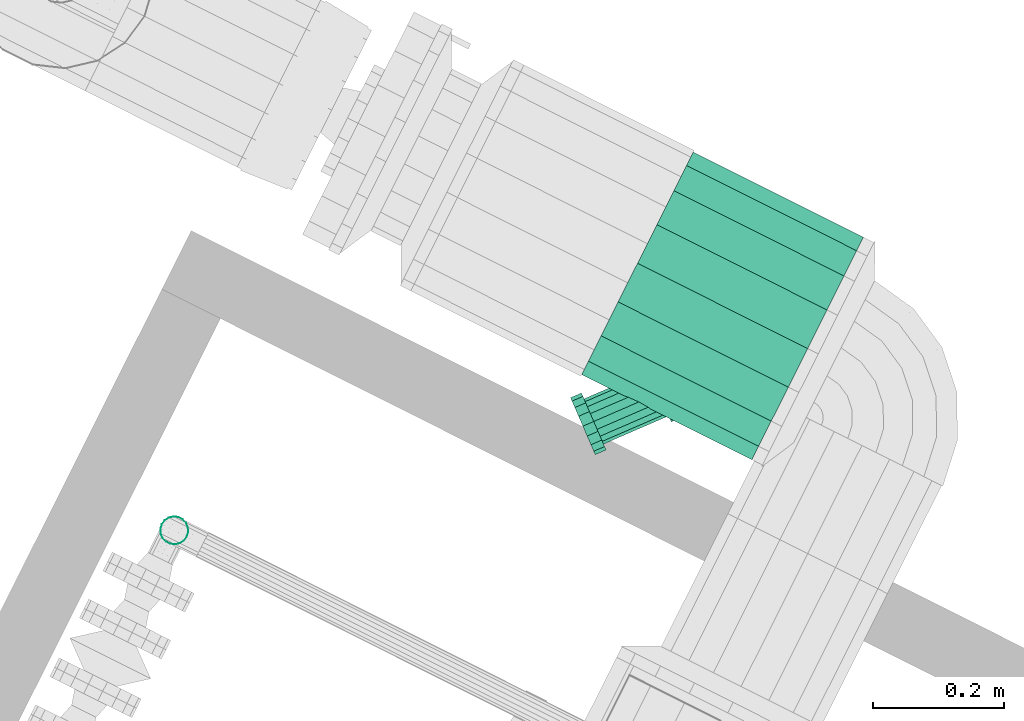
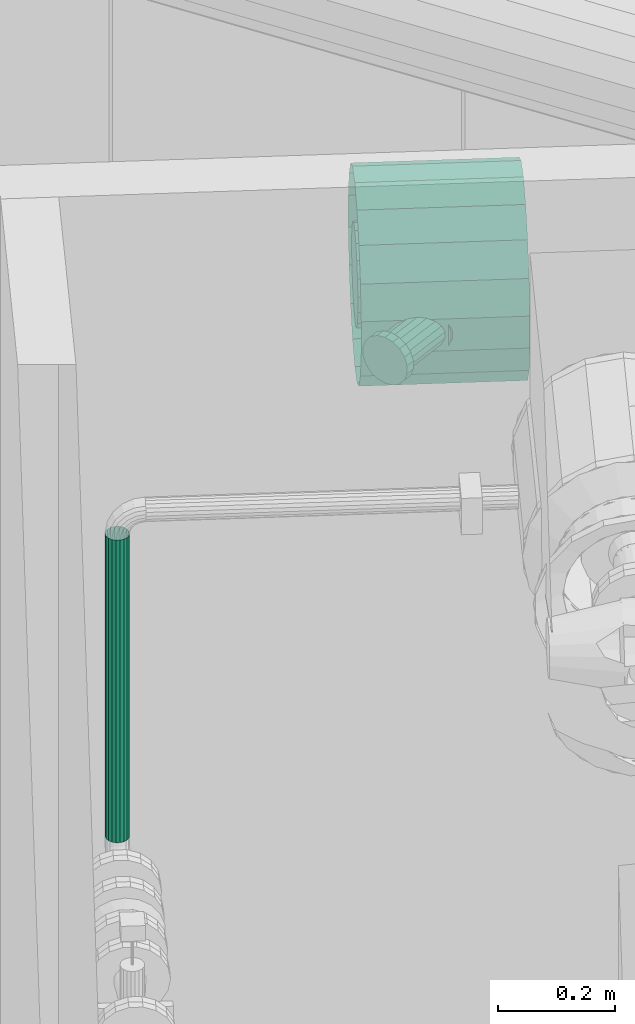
# One storey, part 157 of 206: 1 flow segment, 1 flow treatment device.
"""IFC2X3 building model written with IfcOpenShell, lengths in metres."""

from ifc_helpers import new_model, si_unit, derived_unit, direction, frame, origin, place, context, subcontext, project, spatial, face_set, surface_model, source, transform, mapped, material, type_object, type_shapes, element, save


model = new_model("IFC2X3")

# Units and contexts
model_context = context("Model", 3, precision=5.2338327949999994e-05, world=origin(), true_north=direction((0.0, 1.0)))
body_context = subcontext(model_context, "Body", "Model", "MODEL_VIEW")
ifc_project = project(units=[si_unit("LENGTHUNIT", "METRE"), si_unit("AREAUNIT", "SQUARE_METRE"), si_unit("VOLUMEUNIT", "CUBIC_METRE"), si_unit("MASSUNIT", "GRAM", prefix="KILO"), si_unit("PLANEANGLEUNIT", "RADIAN"), derived_unit("THERMALTRANSMITTANCEUNIT", [(si_unit("MASSUNIT", "GRAM", prefix="KILO"), 1), (si_unit("THERMODYNAMICTEMPERATUREUNIT", "KELVIN"), -1), (si_unit("TIMEUNIT", "SECOND"), -3)])], contexts=[model_context])

# Site, building, storey
site_placement = place(None, frame((0.0, 0.0, 0.0), z_axis=(0.0, 0.0, 1.0), x_axis=(0.8939966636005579, -0.4480736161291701, 0.0)))
site = spatial("IfcSite", under=ifc_project, at=site_placement, Name="Default", CompositionType="ELEMENT")
building_placement = place(site_placement, origin())
building = spatial("IfcBuilding", under=site, at=building_placement, CompositionType="ELEMENT")
storey_placement = place(building_placement, origin())
storey = spatial("IfcBuildingStorey", under=building, at=storey_placement, Name="Erdgeschoss", CompositionType="ELEMENT", Elevation=0.0)

# Flow treatment device
ifc_material_1 = material(Name="IfcSurfaceStyle #1741")
distribution_element_type_1 = type_object("IfcDistributionElementType", Name="Schmutzfänger 332510:Schmutzfänger 332510", material=ifc_material_1)
shared_shape_1 = source(origin(), body_context, "Body", "SurfaceModel", [
    surface_model("IfcFaceBasedSurfaceModel", [(29.630471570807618, 10.279007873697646, 2.314), (29.632229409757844, 10.277532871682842, 2.3270138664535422), (29.70768143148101, 10.367453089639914, 2.327013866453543), (29.702760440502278, 10.365158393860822, 2.3140000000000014), (29.637290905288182, 10.273285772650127, 2.338458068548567), (29.72185086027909, 10.374060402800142, 2.3384580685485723), (29.645045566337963, 10.266778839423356, 2.346952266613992), (29.74355968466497, 10.38418339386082, 2.346952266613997), (29.65455806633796, 10.258796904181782, 2.351471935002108), (29.770189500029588, 10.396601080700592, 2.351471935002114), (29.66468105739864, 10.250302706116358, 2.351471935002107), (29.787439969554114, 10.396601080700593, 2.3514719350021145), (29.674193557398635, 10.242320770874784, 2.3469522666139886), (29.793230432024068, 10.384183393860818, 2.346952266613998), (29.681948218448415, 10.235813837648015, 2.3384580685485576), (29.7979508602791, 10.374060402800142, 2.3384580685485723), (29.687009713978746, 10.231566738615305, 2.327013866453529), (29.801031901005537, 10.36745308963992, 2.3270138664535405), (29.688767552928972, 10.2300917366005, 2.3139999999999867), (29.80210193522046, 10.365158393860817, 2.3139999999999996), (29.687009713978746, 10.231566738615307, 2.300986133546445), (29.801031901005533, 10.36745308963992, 2.300986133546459), (29.681948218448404, 10.23581383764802, 2.289541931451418), (29.797950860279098, 10.374060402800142, 2.289541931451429), (29.67419355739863, 10.242320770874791, 2.2810477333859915), (29.793230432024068, 10.384183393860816, 2.2810477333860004), (29.66468105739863, 10.250302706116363, 2.276528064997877), (29.787439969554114, 10.396601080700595, 2.2765280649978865), (29.654558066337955, 10.258796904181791, 2.276528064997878), (29.770189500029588, 10.396601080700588, 2.2765280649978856), (29.645045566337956, 10.266778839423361, 2.2810477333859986), (29.743559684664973, 10.38418339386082, 2.2810477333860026), (29.637290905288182, 10.273285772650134, 2.2895419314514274), (29.72185086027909, 10.374060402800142, 2.289541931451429), (29.632229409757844, 10.277532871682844, 2.300986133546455), (29.707681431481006, 10.367453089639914, 2.3009861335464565), (29.820127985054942, 10.403208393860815, 2.2215000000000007), (29.820127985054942, 10.371571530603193, 2.2270784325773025), (29.802127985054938, 10.371571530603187, 2.227078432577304), (29.802127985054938, 10.403208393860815, 2.221500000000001), (29.820127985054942, 10.343750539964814, 2.243140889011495), (29.802127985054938, 10.343750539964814, 2.243140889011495), (29.820127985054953, 10.323101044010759, 2.2677499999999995), (29.802127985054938, 10.323101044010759, 2.2677500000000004), (29.820127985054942, 10.312113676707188, 2.2979375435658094), (29.802127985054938, 10.312113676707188, 2.2979375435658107), (29.820127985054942, 10.31211367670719, 2.3300624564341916), (29.802127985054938, 10.31211367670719, 2.3300624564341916), (29.820127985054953, 10.323101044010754, 2.3602500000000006), (29.802127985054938, 10.323101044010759, 2.3602500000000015), (29.820127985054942, 10.343750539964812, 2.3848591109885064), (29.802127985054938, 10.343750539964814, 2.384859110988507), (29.820127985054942, 10.37157153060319, 2.400921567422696), (29.802127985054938, 10.37157153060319, 2.4009215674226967), (29.820127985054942, 10.403208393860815, 2.4065000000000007), (29.802127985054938, 10.403208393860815, 2.4065000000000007), (29.820127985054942, 10.434845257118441, 2.4009215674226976), (29.802127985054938, 10.434845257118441, 2.4009215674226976), (29.820127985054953, 10.462666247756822, 2.3848591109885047), (29.802127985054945, 10.462666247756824, 2.3848591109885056), (29.820127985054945, 10.483315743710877, 2.360249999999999), (29.802127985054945, 10.483315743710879, 2.36025), (29.820127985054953, 10.494303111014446, 2.3300624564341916), (29.802127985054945, 10.494303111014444, 2.3300624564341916), (29.820127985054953, 10.494303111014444, 2.2979375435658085), (29.802127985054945, 10.494303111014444, 2.29793754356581), (29.820127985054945, 10.483315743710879, 2.2677499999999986), (29.802127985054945, 10.483315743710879, 2.2677499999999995), (29.820127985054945, 10.462666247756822, 2.243140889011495), (29.80212798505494, 10.462666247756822, 2.2431408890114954), (29.820127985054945, 10.434845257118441, 2.2270784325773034), (29.802127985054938, 10.434845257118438, 2.2270784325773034), (29.82012798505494, 10.403208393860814, 2.314), (29.802127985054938, 10.403208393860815, 2.314), (29.802127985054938, 10.403208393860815, 2.2759500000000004), (29.802127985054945, 10.390194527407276, 2.278244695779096), (29.548127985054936, 10.390194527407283, 2.2782446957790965), (29.548127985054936, 10.403208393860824, 2.275950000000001), (29.802127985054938, 10.378750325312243, 2.2848520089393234), (29.548127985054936, 10.37875032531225, 2.2848520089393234), (29.802127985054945, 10.370256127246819, 2.294975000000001), (29.54812798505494, 10.370256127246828, 2.2949750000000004), (29.802127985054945, 10.3657364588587, 2.3073926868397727), (29.548127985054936, 10.36573645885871, 2.3073926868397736), (29.80212798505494, 10.365736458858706, 2.320607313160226), (29.54812798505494, 10.365736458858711, 2.320607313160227), (29.80212798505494, 10.370256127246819, 2.333025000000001), (29.54812798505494, 10.370256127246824, 2.3330250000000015), (29.80212798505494, 10.378750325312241, 2.343147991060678), (29.548127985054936, 10.378750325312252, 2.343147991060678), (29.80212798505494, 10.390194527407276, 2.349755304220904), (29.548127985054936, 10.390194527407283, 2.3497553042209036), (29.802127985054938, 10.403208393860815, 2.3520500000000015), (29.548127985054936, 10.403208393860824, 2.3520500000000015), (29.802127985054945, 10.416222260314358, 2.3497553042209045), (29.54812798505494, 10.416222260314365, 2.349755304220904), (29.802127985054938, 10.42766646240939, 2.3431479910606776), (29.548127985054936, 10.427666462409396, 2.3431479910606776), (29.802127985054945, 10.43616066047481, 2.3330249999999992), (29.548127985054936, 10.43616066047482, 2.3330249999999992), (29.80212798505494, 10.440680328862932, 2.3206073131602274), (29.54812798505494, 10.44068032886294, 2.3206073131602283), (29.80212798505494, 10.440680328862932, 2.307392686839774), (29.54812798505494, 10.44068032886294, 2.307392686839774), (29.80212798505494, 10.436160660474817, 2.2949749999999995), (29.54812798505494, 10.43616066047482, 2.2949750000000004), (29.80212798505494, 10.42766646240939, 2.284852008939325), (29.54812798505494, 10.427666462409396, 2.2848520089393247), (29.802127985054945, 10.416222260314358, 2.2782446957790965), (29.548127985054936, 10.416222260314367, 2.2782446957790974), (29.548127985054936, 10.403208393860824, 2.2215000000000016), (29.548127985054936, 10.3715715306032, 2.227078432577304), (29.530127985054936, 10.371571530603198, 2.2270784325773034), (29.53012798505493, 10.403208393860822, 2.221500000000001), (29.548127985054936, 10.343750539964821, 2.243140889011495), (29.53012798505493, 10.343750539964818, 2.243140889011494), (29.548127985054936, 10.323101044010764, 2.267749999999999), (29.53012798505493, 10.323101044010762, 2.2677499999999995), (29.548127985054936, 10.312113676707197, 2.29793754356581), (29.53012798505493, 10.312113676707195, 2.29793754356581), (29.548127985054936, 10.312113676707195, 2.3300624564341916), (29.53012798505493, 10.312113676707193, 2.330062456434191), (29.548127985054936, 10.323101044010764, 2.36025), (29.530127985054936, 10.323101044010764, 2.36025), (29.548127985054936, 10.343750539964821, 2.3848591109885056), (29.53012798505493, 10.343750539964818, 2.3848591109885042), (29.548127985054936, 10.3715715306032, 2.400921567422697), (29.53012798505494, 10.371571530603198, 2.4009215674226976), (29.548127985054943, 10.403208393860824, 2.4065000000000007), (29.53012798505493, 10.403208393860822, 2.4065), (29.548127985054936, 10.434845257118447, 2.4009215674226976), (29.53012798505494, 10.434845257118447, 2.400921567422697), (29.548127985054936, 10.462666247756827, 2.384859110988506), (29.53012798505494, 10.462666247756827, 2.384859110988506), (29.548127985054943, 10.483315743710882, 2.36025), (29.53012798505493, 10.483315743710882, 2.3602500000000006), (29.54812798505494, 10.494303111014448, 2.3300624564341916), (29.53012798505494, 10.494303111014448, 2.330062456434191), (29.54812798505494, 10.494303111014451, 2.2979375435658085), (29.530127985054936, 10.494303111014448, 2.29793754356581), (29.54812798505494, 10.483315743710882, 2.26775), (29.53012798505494, 10.48331574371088, 2.26775), (29.54812798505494, 10.462666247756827, 2.243140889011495), (29.53012798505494, 10.462666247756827, 2.243140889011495), (29.54812798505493, 10.43484525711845, 2.2270784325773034), (29.530127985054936, 10.434845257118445, 2.2270784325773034), (29.548127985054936, 10.403208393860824, 2.314), (29.530127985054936, 10.403208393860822, 2.314), (29.659619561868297, 10.254549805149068, 2.26595), (29.672208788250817, 10.243986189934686, 2.268847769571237), (29.660638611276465, 10.230197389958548, 2.2688477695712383), (29.648049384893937, 10.240761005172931, 2.2659500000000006), (29.68327956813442, 10.234696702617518, 2.2771915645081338), (29.671709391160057, 10.220907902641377, 2.277191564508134), (29.691496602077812, 10.227801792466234, 2.2899749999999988), (29.67992642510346, 10.214012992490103, 2.2899749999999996), (29.69586879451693, 10.224133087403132, 2.3056562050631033), (29.684298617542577, 10.210344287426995, 2.3056562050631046), (29.695868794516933, 10.224133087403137, 2.3223437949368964), (29.684298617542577, 10.210344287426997, 2.3223437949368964), (29.691496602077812, 10.227801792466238, 2.338025), (29.679926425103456, 10.214012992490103, 2.338025), (29.68327956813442, 10.234696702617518, 2.3508084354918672), (29.671709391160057, 10.220907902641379, 2.350808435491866), (29.672208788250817, 10.243986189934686, 2.3591522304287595), (29.660638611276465, 10.230197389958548, 2.3591522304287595), (29.659619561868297, 10.254549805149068, 2.3620500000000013), (29.648049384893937, 10.240761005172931, 2.3620500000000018), (29.647030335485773, 10.265113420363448, 2.359152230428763), (29.635460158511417, 10.251324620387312, 2.359152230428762), (29.635959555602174, 10.274402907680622, 2.350808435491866), (29.624389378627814, 10.260614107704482, 2.3508084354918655), (29.627742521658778, 10.281297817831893, 2.338025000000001), (29.616172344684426, 10.267509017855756, 2.338025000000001), (29.623370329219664, 10.284966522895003, 2.3223437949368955), (29.611800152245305, 10.271177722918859, 2.3223437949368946), (29.623370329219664, 10.284966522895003, 2.3056562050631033), (29.611800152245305, 10.271177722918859, 2.3056562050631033), (29.627742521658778, 10.281297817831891, 2.289975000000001), (29.616172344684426, 10.267509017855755, 2.289975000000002), (29.635959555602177, 10.27440290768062, 2.277191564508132), (29.624389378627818, 10.26061410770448, 2.277191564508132), (29.647030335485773, 10.265113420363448, 2.2688477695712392), (29.63546015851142, 10.251324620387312, 2.2688477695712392), (29.659619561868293, 10.254549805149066, 2.314), (29.648049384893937, 10.240761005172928, 2.314), (29.648049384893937, 10.240761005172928, 2.2759500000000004), (29.658018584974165, 10.232395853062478, 2.2782446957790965), (29.58847579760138, 10.149517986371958, 2.278244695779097), (29.57850659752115, 10.157883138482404, 2.2759500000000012), (29.666785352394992, 10.225039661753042, 2.284852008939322), (29.59724256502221, 10.142161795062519, 2.2848520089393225), (29.673292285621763, 10.219579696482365, 2.294975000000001), (29.603749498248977, 10.13670182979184, 2.294975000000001), (29.67675455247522, 10.216674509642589, 2.307392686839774), (29.607211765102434, 10.133796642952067, 2.307392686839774), (29.67675455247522, 10.216674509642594, 2.320607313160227), (29.607211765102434, 10.133796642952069, 2.320607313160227), (29.673292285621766, 10.219579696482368, 2.3330249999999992), (29.60374949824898, 10.136701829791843, 2.3330249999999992), (29.666785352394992, 10.225039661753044, 2.3431479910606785), (29.59724256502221, 10.142161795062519, 2.34314799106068), (29.658018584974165, 10.232395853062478, 2.3497553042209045), (29.588475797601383, 10.149517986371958, 2.3497553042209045), (29.648049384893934, 10.240761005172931, 2.35205), (29.578506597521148, 10.157883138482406, 2.35205), (29.638080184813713, 10.249126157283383, 2.3497553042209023), (29.56853739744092, 10.166248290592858, 2.3497553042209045), (29.62931341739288, 10.256482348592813, 2.343147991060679), (29.559770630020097, 10.17360448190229, 2.343147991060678), (29.622806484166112, 10.261942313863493, 2.333025), (29.55326369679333, 10.179064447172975, 2.333025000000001), (29.61934421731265, 10.26484750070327, 2.3206073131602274), (29.549801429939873, 10.181969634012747, 2.3206073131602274), (29.61934421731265, 10.264847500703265, 2.307392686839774), (29.549801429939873, 10.181969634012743, 2.307392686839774), (29.622806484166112, 10.26194231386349, 2.2949750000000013), (29.55326369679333, 10.179064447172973, 2.2949750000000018), (29.629313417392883, 10.256482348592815, 2.284852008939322), (29.559770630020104, 10.173604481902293, 2.284852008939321), (29.638080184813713, 10.249126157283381, 2.278244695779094), (29.568537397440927, 10.166248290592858, 2.278244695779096), (29.57850659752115, 10.157883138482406, 2.2659499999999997), (29.591095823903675, 10.147319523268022, 2.2688477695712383), (29.57952564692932, 10.133530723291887, 2.2688477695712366), (29.566936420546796, 10.144094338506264, 2.265949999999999), (29.60216660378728, 10.138030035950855, 2.2771915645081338), (29.59059642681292, 10.124241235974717, 2.2771915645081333), (29.610383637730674, 10.13113512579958, 2.289974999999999), (29.598813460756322, 10.117346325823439, 2.289974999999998), (29.614755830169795, 10.12746642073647, 2.305656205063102), (29.603185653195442, 10.113677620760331, 2.305656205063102), (29.614755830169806, 10.12746642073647, 2.3223437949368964), (29.603185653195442, 10.11367762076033, 2.322343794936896), (29.61038363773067, 10.13113512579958, 2.3380249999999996), (29.598813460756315, 10.117346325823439, 2.3380249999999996), (29.60216660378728, 10.138030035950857, 2.3508084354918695), (29.59059642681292, 10.124241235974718, 2.350808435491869), (29.591095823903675, 10.147319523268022, 2.3591522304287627), (29.579525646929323, 10.133530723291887, 2.359152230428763), (29.57850659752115, 10.157883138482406, 2.3620500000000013), (29.5669364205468, 10.144094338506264, 2.362050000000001), (29.56591737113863, 10.168446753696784, 2.3591522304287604), (29.554347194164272, 10.154657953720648, 2.3591522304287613), (29.55484659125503, 10.17773624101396, 2.3508084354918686), (29.543276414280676, 10.163947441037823, 2.3508084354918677), (29.546629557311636, 10.184631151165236, 2.3380249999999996), (29.535059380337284, 10.170842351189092, 2.338024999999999), (29.542257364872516, 10.188299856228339, 2.322343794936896), (29.53068718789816, 10.174511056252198, 2.3223437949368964), (29.542257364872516, 10.18829985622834, 2.305656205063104), (29.53068718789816, 10.174511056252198, 2.305656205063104), (29.546629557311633, 10.184631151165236, 2.289975), (29.535059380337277, 10.170842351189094, 2.2899749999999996), (29.55484659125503, 10.17773624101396, 2.277191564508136), (29.54327641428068, 10.163947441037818, 2.277191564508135), (29.565917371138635, 10.168446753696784, 2.268847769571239), (29.554347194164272, 10.15465795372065, 2.268847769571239), (29.57850659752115, 10.1578831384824, 2.314), (29.566936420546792, 10.144094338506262, 2.314), (29.820127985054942, 10.403208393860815, 2.1215000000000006), (29.820127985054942, 10.337369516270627, 2.133109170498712), (29.530127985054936, 10.337369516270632, 2.1331091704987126), (29.530127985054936, 10.403208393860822, 2.121500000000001), (29.820127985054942, 10.279471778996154, 2.166536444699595), (29.530127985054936, 10.279471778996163, 2.166536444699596), (29.820127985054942, 10.236498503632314, 2.2177499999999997), (29.530127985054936, 10.236498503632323, 2.21775), (29.820127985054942, 10.213632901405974, 2.2805727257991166), (29.53012798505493, 10.21363290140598, 2.280572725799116), (29.820127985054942, 10.213632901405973, 2.347427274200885), (29.53012798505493, 10.21363290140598, 2.3474272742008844), (29.820127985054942, 10.236498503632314, 2.4102499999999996), (29.530127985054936, 10.23649850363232, 2.4102500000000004), (29.820127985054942, 10.27947177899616, 2.4614635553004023), (29.53012798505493, 10.279471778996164, 2.461463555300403), (29.820127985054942, 10.337369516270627, 2.4948908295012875), (29.530127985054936, 10.337369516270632, 2.494890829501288), (29.820127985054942, 10.403208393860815, 2.5065000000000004), (29.530127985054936, 10.403208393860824, 2.5065000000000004), (29.820127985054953, 10.469047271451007, 2.494890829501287), (29.53012798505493, 10.46904727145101, 2.4948908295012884), (29.820127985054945, 10.526945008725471, 2.461463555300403), (29.53012798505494, 10.526945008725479, 2.461463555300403), (29.820127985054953, 10.56991828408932, 2.41025), (29.53012798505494, 10.569918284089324, 2.410250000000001), (29.82012798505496, 10.592783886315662, 2.347427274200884), (29.53012798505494, 10.592783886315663, 2.347427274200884), (29.820127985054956, 10.592783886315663, 2.2805727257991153), (29.53012798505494, 10.592783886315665, 2.2805727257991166), (29.820127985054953, 10.569918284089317, 2.2177500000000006), (29.53012798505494, 10.569918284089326, 2.2177500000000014), (29.820127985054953, 10.526945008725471, 2.1665364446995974), (29.53012798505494, 10.526945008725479, 2.166536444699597), (29.820127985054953, 10.469047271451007, 2.133109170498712), (29.530127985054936, 10.469047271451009, 2.1331091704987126)], [face_set([[[0, 1, 2, 3]], [[1, 4, 5, 2]], [[4, 6, 7, 5]], [[6, 8, 9, 7]], [[8, 10, 11, 9]], [[10, 12, 13, 11]], [[12, 14, 15, 13]], [[14, 16, 17, 15]], [[16, 18, 19, 17]], [[18, 20, 21, 19]], [[20, 22, 23, 21]], [[22, 24, 25, 23]], [[24, 26, 27, 25]], [[26, 28, 29, 27]], [[28, 30, 31, 29]], [[30, 32, 33, 31]], [[32, 34, 35, 33]], [[34, 0, 3, 35]], [[36, 37, 38, 39]], [[37, 40, 41, 38]], [[40, 42, 43, 41]], [[42, 44, 45, 43]], [[44, 46, 47, 45]], [[46, 48, 49, 47]], [[48, 50, 51, 49]], [[50, 52, 53, 51]], [[52, 54, 55, 53]], [[54, 56, 57, 55]], [[56, 58, 59, 57]], [[58, 60, 61, 59]], [[60, 62, 63, 61]], [[62, 64, 65, 63]], [[64, 66, 67, 65]], [[66, 68, 69, 67]], [[68, 70, 71, 69]], [[70, 36, 39, 71]], [[72, 37, 36]], [[72, 40, 37]], [[72, 42, 40]], [[72, 44, 42]], [[72, 46, 44]], [[72, 48, 46]], [[72, 50, 48]], [[72, 52, 50]], [[72, 54, 52]], [[72, 56, 54]], [[72, 58, 56]], [[72, 60, 58]], [[72, 62, 60]], [[72, 64, 62]], [[72, 66, 64]], [[72, 68, 66]], [[72, 70, 68]], [[72, 36, 70]], [[73, 71, 39]], [[73, 69, 71]], [[73, 67, 69]], [[73, 65, 67]], [[73, 63, 65]], [[73, 61, 63]], [[73, 59, 61]], [[73, 57, 59]], [[73, 55, 57]], [[73, 53, 55]], [[73, 51, 53]], [[73, 49, 51]], [[73, 47, 49]], [[73, 45, 47]], [[73, 43, 45]], [[73, 41, 43]], [[73, 38, 41]], [[73, 39, 38]], [[74, 75, 76, 77]], [[75, 78, 79, 76]], [[78, 80, 81, 79]], [[80, 82, 83, 81]], [[82, 84, 85, 83]], [[84, 86, 87, 85]], [[86, 88, 89, 87]], [[88, 90, 91, 89]], [[90, 92, 93, 91]], [[92, 94, 95, 93]], [[94, 96, 97, 95]], [[96, 98, 99, 97]], [[98, 100, 101, 99]], [[100, 102, 103, 101]], [[102, 104, 105, 103]], [[104, 106, 107, 105]], [[106, 108, 109, 107]], [[108, 74, 77, 109]], [[110, 111, 112, 113]], [[111, 114, 115, 112]], [[114, 116, 117, 115]], [[116, 118, 119, 117]], [[118, 120, 121, 119]], [[120, 122, 123, 121]], [[122, 124, 125, 123]], [[124, 126, 127, 125]], [[126, 128, 129, 127]], [[128, 130, 131, 129]], [[130, 132, 133, 131]], [[132, 134, 135, 133]], [[134, 136, 137, 135]], [[136, 138, 139, 137]], [[138, 140, 141, 139]], [[140, 142, 143, 141]], [[142, 144, 145, 143]], [[144, 110, 113, 145]], [[146, 111, 110]], [[146, 114, 111]], [[146, 116, 114]], [[146, 118, 116]], [[146, 120, 118]], [[146, 122, 120]], [[146, 124, 122]], [[146, 126, 124]], [[146, 128, 126]], [[146, 130, 128]], [[146, 132, 130]], [[146, 134, 132]], [[146, 136, 134]], [[146, 138, 136]], [[146, 140, 138]], [[146, 142, 140]], [[146, 144, 142]], [[146, 110, 144]], [[147, 145, 113]], [[147, 143, 145]], [[147, 141, 143]], [[147, 139, 141]], [[147, 137, 139]], [[147, 135, 137]], [[147, 133, 135]], [[147, 131, 133]], [[147, 129, 131]], [[147, 127, 129]], [[147, 125, 127]], [[147, 123, 125]], [[147, 121, 123]], [[147, 119, 121]], [[147, 117, 119]], [[147, 115, 117]], [[147, 112, 115]], [[147, 113, 112]], [[148, 149, 150, 151]], [[149, 152, 153, 150]], [[152, 154, 155, 153]], [[154, 156, 157, 155]], [[156, 158, 159, 157]], [[158, 160, 161, 159]], [[160, 162, 163, 161]], [[162, 164, 165, 163]], [[164, 166, 167, 165]], [[166, 168, 169, 167]], [[168, 170, 171, 169]], [[170, 172, 173, 171]], [[172, 174, 175, 173]], [[174, 176, 177, 175]], [[176, 178, 179, 177]], [[178, 180, 181, 179]], [[180, 182, 183, 181]], [[182, 148, 151, 183]], [[184, 149, 148]], [[184, 152, 149]], [[184, 154, 152]], [[184, 156, 154]], [[184, 158, 156]], [[184, 160, 158]], [[184, 162, 160]], [[184, 164, 162]], [[184, 166, 164]], [[184, 168, 166]], [[184, 170, 168]], [[184, 172, 170]], [[184, 174, 172]], [[184, 176, 174]], [[184, 178, 176]], [[184, 180, 178]], [[184, 182, 180]], [[184, 148, 182]], [[185, 183, 151]], [[185, 181, 183]], [[185, 179, 181]], [[185, 177, 179]], [[185, 175, 177]], [[185, 173, 175]], [[185, 171, 173]], [[185, 169, 171]], [[185, 167, 169]], [[185, 165, 167]], [[185, 163, 165]], [[185, 161, 163]], [[185, 159, 161]], [[185, 157, 159]], [[185, 155, 157]], [[185, 153, 155]], [[185, 150, 153]], [[185, 151, 150]], [[186, 187, 188, 189]], [[187, 190, 191, 188]], [[190, 192, 193, 191]], [[192, 194, 195, 193]], [[194, 196, 197, 195]], [[196, 198, 199, 197]], [[198, 200, 201, 199]], [[200, 202, 203, 201]], [[202, 204, 205, 203]], [[204, 206, 207, 205]], [[206, 208, 209, 207]], [[208, 210, 211, 209]], [[210, 212, 213, 211]], [[212, 214, 215, 213]], [[214, 216, 217, 215]], [[216, 218, 219, 217]], [[218, 220, 221, 219]], [[220, 186, 189, 221]], [[222, 223, 224, 225]], [[223, 226, 227, 224]], [[226, 228, 229, 227]], [[228, 230, 231, 229]], [[230, 232, 233, 231]], [[232, 234, 235, 233]], [[234, 236, 237, 235]], [[236, 238, 239, 237]], [[238, 240, 241, 239]], [[240, 242, 243, 241]], [[242, 244, 245, 243]], [[244, 246, 247, 245]], [[246, 248, 249, 247]], [[248, 250, 251, 249]], [[250, 252, 253, 251]], [[252, 254, 255, 253]], [[254, 256, 257, 255]], [[256, 222, 225, 257]], [[258, 223, 222]], [[258, 226, 223]], [[258, 228, 226]], [[258, 230, 228]], [[258, 232, 230]], [[258, 234, 232]], [[258, 236, 234]], [[258, 238, 236]], [[258, 240, 238]], [[258, 242, 240]], [[258, 244, 242]], [[258, 246, 244]], [[258, 248, 246]], [[258, 250, 248]], [[258, 252, 250]], [[258, 254, 252]], [[258, 256, 254]], [[258, 222, 256]], [[259, 257, 225]], [[259, 255, 257]], [[259, 253, 255]], [[259, 251, 253]], [[259, 249, 251]], [[259, 247, 249]], [[259, 245, 247]], [[259, 243, 245]], [[259, 241, 243]], [[259, 239, 241]], [[259, 237, 239]], [[259, 235, 237]], [[259, 233, 235]], [[259, 231, 233]], [[259, 229, 231]], [[259, 227, 229]], [[259, 224, 227]], [[259, 225, 224]], [[260, 261, 262, 263]], [[261, 264, 265, 262]], [[264, 266, 267, 265]], [[266, 268, 269, 267]], [[268, 270, 271, 269]], [[270, 272, 273, 271]], [[272, 274, 275, 273]], [[274, 276, 277, 275]], [[276, 278, 279, 277]], [[278, 280, 281, 279]], [[280, 282, 283, 281]], [[282, 284, 285, 283]], [[284, 286, 287, 285]], [[286, 288, 289, 287]], [[288, 290, 291, 289]], [[290, 292, 293, 291]], [[292, 294, 295, 293]], [[294, 260, 263, 295]]])]),
])
type_shapes(distribution_element_type_1, [shared_shape_1])
flow_treatment_device_placement = place(storey_placement, origin())
element("IfcFlowTreatmentDevice", 1, at=flow_treatment_device_placement, inside=storey, type_object=distribution_element_type_1, material=ifc_material_1, Name="Schmutzfänger", ObjectType="Schmutzfänger", context=body_context, shape_type="MappedRepresentation", body=[
    mapped(shared_shape_1, transform((0.0, 0.0, 0.0), scale=1.0)),
])

# Flow segment
ifc_material_2 = material(Name="IfcSurfaceStyle #352577")
distribution_element_type_2 = type_object("IfcDistributionElementType", Name="Stahlrohr nach DIN 2448 611978:Stahlrohr nach DIN 2448 611978", material=ifc_material_2)
shared_shape_2 = source(origin(), body_context, "Body", "SurfaceModel", [
    surface_model("IfcFaceBasedSurfaceModel", [(29.060618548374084, 9.723162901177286, 1.6320041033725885), (29.061897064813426, 9.715912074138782, 1.6320041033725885), (29.061897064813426, 9.715912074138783, 2.2659999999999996), (29.06061854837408, 9.723162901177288, 2.2659999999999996), (29.065578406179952, 9.70953580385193, 1.6320041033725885), (29.065578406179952, 9.70953580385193, 2.2659999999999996), (29.071218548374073, 9.70480316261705, 1.6320041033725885), (29.071218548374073, 9.704803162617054, 2.2659999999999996), (29.07813720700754, 9.702284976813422, 1.6320041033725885), (29.07813720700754, 9.702284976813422, 2.2659999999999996), (29.085499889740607, 9.702284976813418, 1.6320041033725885), (29.085499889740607, 9.702284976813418, 2.2659999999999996), (29.092418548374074, 9.704803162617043, 1.6320041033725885), (29.092418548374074, 9.704803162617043, 2.2659999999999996), (29.098058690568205, 9.709535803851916, 1.6320041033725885), (29.098058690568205, 9.709535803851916, 2.2659999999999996), (29.10174003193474, 9.715912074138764, 1.6320041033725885), (29.10174003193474, 9.715912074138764, 2.2659999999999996), (29.103018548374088, 9.723162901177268, 1.6320041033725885), (29.103018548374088, 9.723162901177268, 2.2659999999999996), (29.101740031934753, 9.730413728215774, 1.6320041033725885), (29.101740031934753, 9.730413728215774, 2.2659999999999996), (29.098058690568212, 9.73678999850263, 1.6320041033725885), (29.098058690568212, 9.73678999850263, 2.2659999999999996), (29.09241854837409, 9.741522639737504, 1.6320041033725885), (29.09241854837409, 9.741522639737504, 2.2659999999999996), (29.085499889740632, 9.744040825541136, 1.6320041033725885), (29.085499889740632, 9.744040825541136, 2.2659999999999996), (29.07813720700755, 9.744040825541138, 1.6320041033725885), (29.07813720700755, 9.744040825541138, 2.2659999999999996), (29.07121854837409, 9.741522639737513, 1.6320041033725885), (29.07121854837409, 9.741522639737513, 2.2659999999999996), (29.06557840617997, 9.736789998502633, 1.6320041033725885), (29.06557840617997, 9.736789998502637, 2.2659999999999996), (29.061897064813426, 9.730413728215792, 1.6320041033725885), (29.061897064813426, 9.730413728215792, 2.2659999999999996)], [face_set([[[0, 1, 2, 3]], [[1, 4, 5, 2]], [[4, 6, 7, 5]], [[6, 8, 9, 7]], [[8, 10, 11, 9]], [[10, 12, 13, 11]], [[12, 14, 15, 13]], [[14, 16, 17, 15]], [[16, 18, 19, 17]], [[18, 20, 21, 19]], [[20, 22, 23, 21]], [[22, 24, 25, 23]], [[24, 26, 27, 25]], [[26, 28, 29, 27]], [[28, 30, 31, 29]], [[30, 32, 33, 31]], [[32, 34, 35, 33]], [[34, 0, 3, 35]]])]),
])
type_shapes(distribution_element_type_2, [shared_shape_2])
flow_segment_placement = place(storey_placement, origin())
element("IfcFlowSegment", 2, at=flow_segment_placement, inside=storey, type_object=distribution_element_type_2, material=ifc_material_2, Name="Stahlrohr nach DIN 2448", ObjectType="Stahlrohr nach DIN 2448", context=body_context, shape_type="MappedRepresentation", body=[
    mapped(shared_shape_2, transform((0.0, 0.0, 0.0), scale=1.0)),
])

save(model, "model.ifc")
